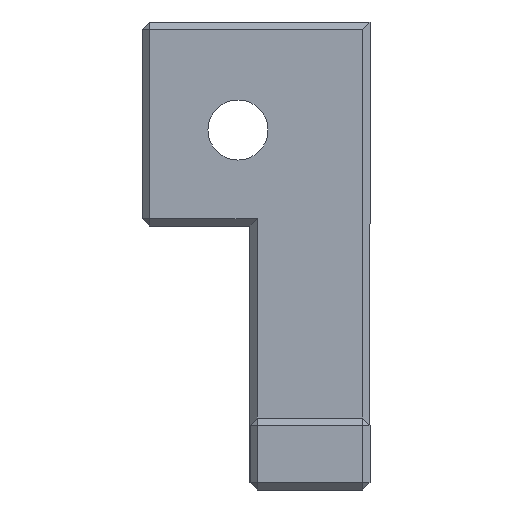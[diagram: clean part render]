
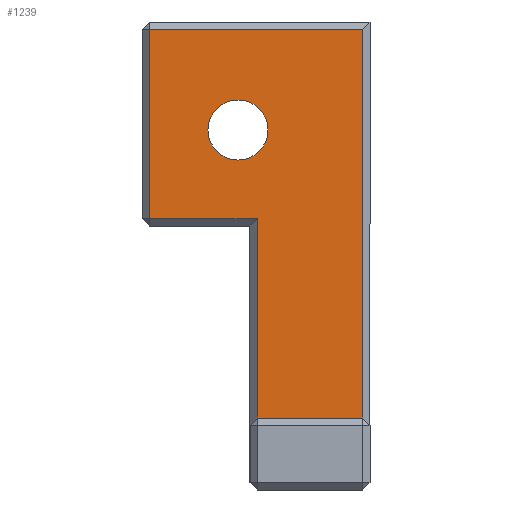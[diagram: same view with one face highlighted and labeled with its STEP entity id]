
A CAD part, front view. The second image highlights one B-rep face of the part: STEP entity #1239.
In plain terms, the highlighted planar face has unit normal (0, -1, 0).
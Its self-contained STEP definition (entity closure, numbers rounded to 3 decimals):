
#19 = CARTESIAN_POINT ( 'NONE',  ( -2.5, 6.5, 11. ) ) ;
#39 = ORIENTED_EDGE ( 'NONE', *, *, #1150, .T. ) ;
#47 = CARTESIAN_POINT ( 'NONE',  ( -3., 6.5, 13.75 ) ) ;
#100 = CARTESIAN_POINT ( 'NONE',  ( -2.5, 6.5, 3. ) ) ;
#105 = CARTESIAN_POINT ( 'NONE',  ( -3., 6.5, 16.25 ) ) ;
#123 = DIRECTION ( 'NONE',  ( 0., 0., -1. ) ) ;
#135 = ORIENTED_EDGE ( 'NONE', *, *, #1270, .T. ) ;
#193 = VECTOR ( 'NONE', #123, 1000. ) ;
#198 = CARTESIAN_POINT ( 'NONE',  ( -2.2, 6.5, 11. ) ) ;
#207 = VERTEX_POINT ( 'NONE', #880 ) ;
#209 = VECTOR ( 'NONE', #883, 1000. ) ;
#240 = DIRECTION ( 'NONE',  ( 0., 0., 1. ) ) ;
#247 = DIRECTION ( 'NONE',  ( 0., 0., 1. ) ) ;
#250 = CARTESIAN_POINT ( 'NONE',  ( -2.2, 6.5, 11.3 ) ) ;
#256 = CARTESIAN_POINT ( 'NONE',  ( -6.7, 6.5, 11.3 ) ) ;
#260 = CARTESIAN_POINT ( 'NONE',  ( -3., 6.5, 15. ) ) ;
#284 = EDGE_CURVE ( 'NONE', #207, #1254, #800, .T. ) ;
#324 = VERTEX_POINT ( 'NONE', #551 ) ;
#335 = ORIENTED_EDGE ( 'NONE', *, *, #284, .T. ) ;
#368 = DIRECTION ( 'NONE',  ( 0., -1., 0. ) ) ;
#376 = DIRECTION ( 'NONE',  ( -1., 0., 0. ) ) ;
#405 = EDGE_CURVE ( 'NONE', #1224, #1015, #835, .T. ) ;
#423 = DIRECTION ( 'NONE',  ( 0., 0., -1. ) ) ;
#441 = CARTESIAN_POINT ( 'NONE',  ( 2.2, 6.5, 11. ) ) ;
#480 = VECTOR ( 'NONE', #240, 1000. ) ;
#499 = VERTEX_POINT ( 'NONE', #250 ) ;
#536 = ORIENTED_EDGE ( 'NONE', *, *, #739, .F. ) ;
#551 = CARTESIAN_POINT ( 'NONE',  ( -2.2, 6.5, 3. ) ) ;
#576 = ORIENTED_EDGE ( 'NONE', *, *, #744, .T. ) ;
#628 = EDGE_CURVE ( 'NONE', #1254, #845, #716, .T. ) ;
#658 = CARTESIAN_POINT ( 'NONE',  ( -3., 6.5, 15. ) ) ;
#661 = CARTESIAN_POINT ( 'NONE',  ( 2.2, 6.5, 19.2 ) ) ;
#698 = VECTOR ( 'NONE', #376, 1000. ) ;
#716 = LINE ( 'NONE', #1159, #698 ) ;
#722 = AXIS2_PLACEMENT_3D ( 'NONE', #658, #1412, #1175 ) ;
#739 = EDGE_CURVE ( 'NONE', #1015, #1224, #839, .T. ) ;
#744 = EDGE_CURVE ( 'NONE', #324, #207, #1197, .T. ) ;
#779 = CARTESIAN_POINT ( 'NONE',  ( -6.7, 6.5, 11. ) ) ;
#800 = LINE ( 'NONE', #441, #480 ) ;
#835 = CIRCLE ( 'NONE', #968, 1.25 ) ;
#839 = CIRCLE ( 'NONE', #722, 1.25 ) ;
#845 = VERTEX_POINT ( 'NONE', #1225 ) ;
#868 = LINE ( 'NONE', #1075, #954 ) ;
#880 = CARTESIAN_POINT ( 'NONE',  ( 2.2, 6.5, 3. ) ) ;
#883 = DIRECTION ( 'NONE',  ( 1., 0., 0. ) ) ;
#910 = PLANE ( 'NONE',  #1021 ) ;
#954 = VECTOR ( 'NONE', #1277, 1000. ) ;
#956 = VERTEX_POINT ( 'NONE', #256 ) ;
#968 = AXIS2_PLACEMENT_3D ( 'NONE', #260, #368, #1136 ) ;
#991 = FACE_BOUND ( 'NONE', #1049, .T. ) ;
#1013 = FACE_OUTER_BOUND ( 'NONE', #1117, .T. ) ;
#1015 = VERTEX_POINT ( 'NONE', #47 ) ;
#1021 = AXIS2_PLACEMENT_3D ( 'NONE', #19, #1416, #247 ) ;
#1049 = EDGE_LOOP ( 'NONE', ( #536, #1347 ) ) ;
#1075 = CARTESIAN_POINT ( 'NONE',  ( -2.5, 6.5, 11.3 ) ) ;
#1106 = LINE ( 'NONE', #779, #193 ) ;
#1117 = EDGE_LOOP ( 'NONE', ( #1201, #39, #576, #335, #1417, #135 ) ) ;
#1136 = DIRECTION ( 'NONE',  ( 0., 0., -1. ) ) ;
#1150 = EDGE_CURVE ( 'NONE', #499, #324, #1302, .T. ) ;
#1159 = CARTESIAN_POINT ( 'NONE',  ( -2.5, 6.5, 19.2 ) ) ;
#1164 = EDGE_CURVE ( 'NONE', #956, #499, #868, .T. ) ;
#1175 = DIRECTION ( 'NONE',  ( 0., 0., -1. ) ) ;
#1197 = LINE ( 'NONE', #100, #209 ) ;
#1201 = ORIENTED_EDGE ( 'NONE', *, *, #1164, .T. ) ;
#1224 = VERTEX_POINT ( 'NONE', #105 ) ;
#1225 = CARTESIAN_POINT ( 'NONE',  ( -6.7, 6.5, 19.2 ) ) ;
#1239 = ADVANCED_FACE ( 'NONE', ( #991, #1013 ), #910, .F. ) ;
#1244 = VECTOR ( 'NONE', #423, 1000. ) ;
#1254 = VERTEX_POINT ( 'NONE', #661 ) ;
#1270 = EDGE_CURVE ( 'NONE', #845, #956, #1106, .T. ) ;
#1277 = DIRECTION ( 'NONE',  ( 1., 0., 0. ) ) ;
#1302 = LINE ( 'NONE', #198, #1244 ) ;
#1347 = ORIENTED_EDGE ( 'NONE', *, *, #405, .F. ) ;
#1412 = DIRECTION ( 'NONE',  ( 0., -1., 0. ) ) ;
#1416 = DIRECTION ( 'NONE',  ( 0., 1., 0. ) ) ;
#1417 = ORIENTED_EDGE ( 'NONE', *, *, #628, .T. ) ;
